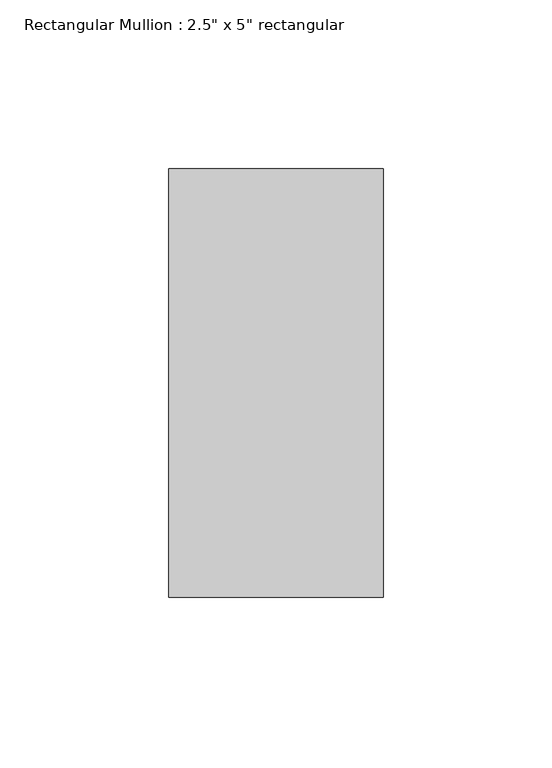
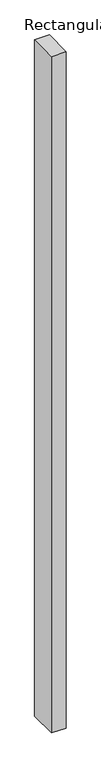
"""IFC4 building model written with IfcOpenShell, lengths in millimetres: member geometry."""

import ifcopenshell
import ifcopenshell.guid

model = None  # the IFC model being written
_history = None  # IfcOwnerHistory: only IFC2X3 demands one
_inside = {}  # id of a spatial element -> (the spatial element, [elements in it])
_under = {}  # id of a project, library or spatial element -> (it, [spatial elements below it])
_declared = {}  # id of a project -> (the project, [libraries it declares])
_typed = {}  # id of a type object -> (the type object, [elements of that type])
_made_of = {}  # id of a material, layer set ... -> (it, [elements and type objects made of it])


def new_model(schema):
    """Start an empty IFC model of exactly this schema.

    Asked for "IFC4X3", IfcOpenShell would pick the latest addendum, in which some entities
    have other attributes; the version numbers below select the first issue.
    IFC2X3 requires an IfcOwnerHistory on every rooted entity: one is made here for all.
    """
    global model, _history
    if schema == "IFC4X3":
        model = ifcopenshell.file(schema_version=(4, 3, 0, 0))
    else:
        model = ifcopenshell.file(schema=schema)
    _inside.clear()
    _under.clear()
    _declared.clear()
    _typed.clear()
    _made_of.clear()
    _history = None
    if model.schema == "IFC2X3":
        org = make("IfcOrganization", Name="unknown")
        user = make(
            "IfcPersonAndOrganization",
            ThePerson=make("IfcPerson", FamilyName="unknown"),
            TheOrganization=org,
        )
        app = make(
            "IfcApplication",
            ApplicationDeveloper=org,
            Version="unknown",
            ApplicationFullName="unknown",
            ApplicationIdentifier="unknown",
        )
        _history = make(
            "IfcOwnerHistory",
            OwningUser=user,
            OwningApplication=app,
            ChangeAction="ADDED",
            CreationDate=0,
        )
    return model


def make(cls, **values):
    """One entity of the class cls with the attributes given. An attribute that is None is left unset."""
    return model.create_entity(
        cls, **{name: value for name, value in values.items() if value is not None}
    )


def rooted(cls, **values):
    """An entity with a GlobalId (a new one), such as an element, a storey or a relation."""
    return make(cls, GlobalId=ifcopenshell.guid.new(), OwnerHistory=_history, **values)


def si_unit(unit_type, name, prefix=None):
    """IfcSIUnit, for example si_unit("LENGTHUNIT", "METRE", prefix="MILLI")."""
    return make("IfcSIUnit", UnitType=unit_type, Prefix=prefix, Name=name)


def assignment(units):
    """IfcUnitAssignment: the units of a project."""
    return None if units is None else make("IfcUnitAssignment", Units=units)


def point(xyz):
    """IfcCartesianPoint."""
    return None if xyz is None else make("IfcCartesianPoint", Coordinates=xyz)


def direction(xyz):
    """IfcDirection."""
    return None if xyz is None else make("IfcDirection", DirectionRatios=xyz)


def frame(location, z_axis=None, x_axis=None):
    """IfcAxis2Placement3D, a coordinate frame: its origin and axes. An axis left out is left unset."""
    return make(
        "IfcAxis2Placement3D",
        Location=point(location),
        Axis=direction(z_axis),
        RefDirection=direction(x_axis),
    )


def origin():
    """The frame at (0, 0, 0) with its axes left unset."""
    return frame((0.0, 0.0, 0.0))


def place(relative_to, where):
    """IfcLocalPlacement: puts the frame where relative to a parent placement (None: the world)."""
    return make(
        "IfcLocalPlacement", PlacementRelTo=relative_to, RelativePlacement=where
    )


def context(
    kind, dimensions, precision=None, world=None, true_north=None, identifier=None
):
    """IfcGeometricRepresentationContext, for example the 3D "Model" context."""
    return make(
        "IfcGeometricRepresentationContext",
        ContextIdentifier=identifier,
        ContextType=kind,
        CoordinateSpaceDimension=dimensions,
        Precision=precision,
        WorldCoordinateSystem=world,
        TrueNorth=true_north,
    )


def project(units=None, contexts=None):
    """IfcProject with its units and contexts."""
    return rooted(
        "IfcProject",
        Name="project",
        RepresentationContexts=contexts,
        UnitsInContext=assignment(units),
    )


def spatial(cls, under=None, at=None, **own):
    """A site, building, storey or space (cls), placed at a placement, below another one or the project."""
    s = rooted(cls, ObjectPlacement=at, **own)
    if under is not None:
        _under.setdefault(under.id(), (under, []))[1].append(s)
    return s


def polyline(points):
    """IfcPolyline through the points."""
    return make("IfcPolyline", Points=[point(p) for p in points])


def outline(outer, holes=None, kind="AREA"):
    """IfcArbitraryClosedProfileDef: a profile drawn as a closed curve; with holes, ...WithVoids."""
    if holes is None:
        return make("IfcArbitraryClosedProfileDef", ProfileType=kind, OuterCurve=outer)
    return make(
        "IfcArbitraryProfileDefWithVoids",
        ProfileType=kind,
        OuterCurve=outer,
        InnerCurves=holes,
    )


def extrude(swept, where, along, depth):
    """IfcExtrudedAreaSolid: the profile swept, set in the frame where, extruded along a direction by depth."""
    return make(
        "IfcExtrudedAreaSolid",
        SweptArea=swept,
        Position=where,
        ExtrudedDirection=direction(along),
        Depth=depth,
    )


def shape(context_of_items, identifier, shape_type, items):
    """IfcShapeRepresentation: the items that make up one representation, for example the "Body"."""
    return make(
        "IfcShapeRepresentation",
        ContextOfItems=context_of_items,
        RepresentationIdentifier=identifier,
        RepresentationType=shape_type,
        Items=items,
    )


def source(mapping_origin, context_of_items, identifier, shape_type, items):
    """IfcRepresentationMap: a shape defined once, which mapped items show again and again."""
    return make(
        "IfcRepresentationMap",
        MappingOrigin=mapping_origin,
        MappedRepresentation=shape(context_of_items, identifier, shape_type, items),
    )


def transform(
    local_origin,
    x_axis=None,
    y_axis=None,
    z_axis=None,
    scale=None,
    scale2=None,
    scale3=None,
    uniform=True,
):
    """IfcCartesianTransformationOperator3D, or its non-uniform kind. x_axis, y_axis, z_axis: its Axis1, 2, 3."""
    if uniform:
        return make(
            "IfcCartesianTransformationOperator3D",
            Axis1=direction(x_axis),
            Axis2=direction(y_axis),
            LocalOrigin=point(local_origin),
            Scale=scale,
            Axis3=direction(z_axis),
        )
    return make(
        "IfcCartesianTransformationOperator3DnonUniform",
        Axis1=direction(x_axis),
        Axis2=direction(y_axis),
        LocalOrigin=point(local_origin),
        Scale=scale,
        Axis3=direction(z_axis),
        Scale2=scale2,
        Scale3=scale3,
    )


def mapped(mapping_source, mapping_target):
    """IfcMappedItem: shows the shape of a source again, moved by a transform."""
    return make(
        "IfcMappedItem", MappingSource=mapping_source, MappingTarget=mapping_target
    )


def made_of(thing, what):
    """Note that an element or type object is made of a material, layer set ...; save() writes the relation."""
    if what is not None:
        _made_of.setdefault(what.id(), (what, []))[1].append(thing)
    return thing


def element(
    cls,
    number,
    at=None,
    inside=None,
    cuts=None,
    type_object=None,
    material=None,
    context=None,
    identifier="Body",
    shape_type=None,
    held_by="IfcProductDefinitionShape",
    body=None,
    shapes=None,
    **own,
):
    """One element of the class cls, such as IfcWall. Its Tag is "e" and its number.

    at: its placement. inside: the storey or other place that contains it. cuts: it is an
    opening in that element (IfcRelVoidsElement). A single representation is given by context,
    identifier, shape_type and body (its items); several are given by shapes. held_by: the class
    of the entity that holds the representations. save() writes the other relations.
    """
    e = rooted(cls, Tag="e%d" % number, ObjectPlacement=at, **own)
    if body is not None:
        shapes = [shape(context, identifier, shape_type, body)]
    if shapes is not None:
        e.Representation = make(held_by, Representations=shapes)
    if inside is not None:
        _inside.setdefault(inside.id(), (inside, []))[1].append(e)
    if cuts is not None:
        rooted(
            "IfcRelVoidsElement", RelatingBuildingElement=cuts, RelatedOpeningElement=e
        )
    if type_object is not None:
        _typed.setdefault(type_object.id(), (type_object, []))[1].append(e)
    return made_of(e, material)


def aggregate(whole, parts):
    """IfcRelAggregates: a whole, such as a stair, and the parts it consists of."""
    return rooted("IfcRelAggregates", RelatingObject=whole, RelatedObjects=parts)


def save(model, path):
    """Write the relations noted so far, then the file.

    IfcRelAggregates (storeys below a building ...), IfcRelContainedInSpatialStructure (elements
    in a storey), IfcRelDefinesByType, IfcRelAssociatesMaterial and IfcRelDeclares: one each for
    every whole, place, type object, material and project.
    """
    for whole, parts in _under.values():
        aggregate(whole, parts)
    for where, things in _inside.values():
        rooted(
            "IfcRelContainedInSpatialStructure",
            RelatedElements=things,
            RelatingStructure=where,
        )
    for kind, things in _typed.values():
        rooted("IfcRelDefinesByType", RelatedObjects=things, RelatingType=kind)
    for what, things in _made_of.values():
        rooted("IfcRelAssociatesMaterial", RelatedObjects=things, RelatingMaterial=what)
    for by, libraries in _declared.values():
        rooted("IfcRelDeclares", RelatingContext=by, RelatedDefinitions=libraries)
    model.write(path)


def member_a8023948(model_context):
    return source(origin(), model_context, "Body", "SweptSolid", [
        extrude(outline(polyline([(0.0, 0.0), (-0.8472538, -63.5), (-3108.7237624, -63.5), (-3109.4179288, 0.0), (0.0, 0.0)])), frame((0.0, -63.5, 0.0), z_axis=(0.0, 1.0, 0.0), x_axis=(0.0, 0.0, 1.0)), (0.0, 0.0, 1.0), 127.0),
    ])


if __name__ == "__main__":
    model = new_model("IFC4")
    model_context = context("Model", 3, world=origin())
    ifc_project = project(units=[si_unit("LENGTHUNIT", "METRE", prefix="MILLI")], contexts=[model_context])
    site = spatial("IfcSite", under=ifc_project)
    building = spatial("IfcBuilding", under=site)
    placement = place(None, origin())
    member_shape = member_a8023948(model_context)
    element("IfcMember", 1, ObjectType="Rectangular Mullion : 2.5\" x 5\" rectangular", at=placement, inside=building, context=model_context, shape_type="MappedRepresentation", body=[
        mapped(member_shape, transform((0.0, 0.0, 0.0), x_axis=(1.0, 0.0, 0.0), y_axis=(0.0, 1.0, 0.0), z_axis=(0.0, 0.0, 1.0))),
    ])
    save(model, "model.ifc")
